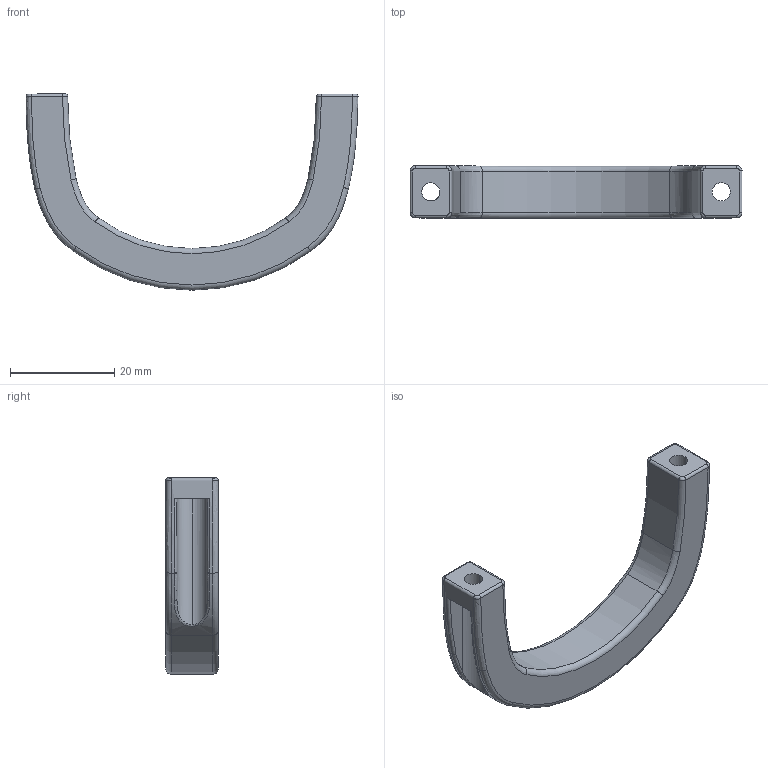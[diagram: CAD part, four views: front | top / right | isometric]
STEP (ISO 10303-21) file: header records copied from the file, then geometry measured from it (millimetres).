
FILE_DESCRIPTION (( 'STEP AP203' ), '1' );
FILE_NAME ('G1手腕相机支架-上装-抱紧环.STEP', '2025-08-21T06:35:14', ( '' ), ( '' ), 'SwSTEP 2.0', 'SolidWorks 2023', '' );
FILE_SCHEMA (( 'CONFIG_CONTROL_DESIGN' ));
Length unit declared in the file: millimetre
Products named in the file (1): G1手腕相机支架-上装-抱紧环
Bounding box: 63.72 x 10 x 37.71 mm (x, y, z)
Volume: 6747.8 mm3; surface area: 4080.1 mm2
Topology: 1 solids, 1 shells, 75 faces, 179 edges, 106 vertices
Faces by surface type: bspline 40, cylinder 19, plane 10, torus 6
Entity records: 4010 total; most frequent: CARTESIAN_POINT 2486, ORIENTED_EDGE 358, DIRECTION 217, EDGE_CURVE 179, VERTEX_POINT 106, AXIS2_PLACEMENT_3D 87, B_SPLINE_CURVE_WITH_KNOTS 83, EDGE_LOOP 79
